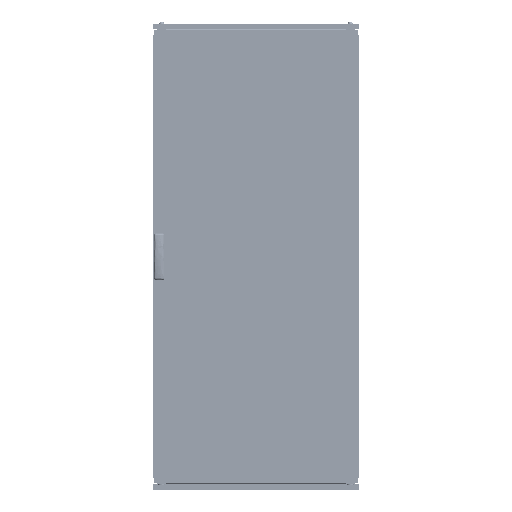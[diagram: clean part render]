
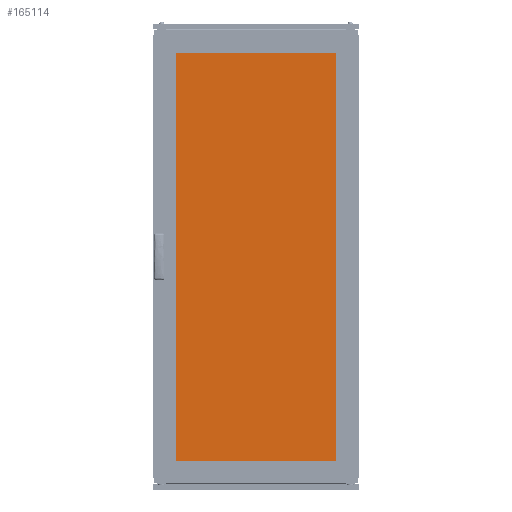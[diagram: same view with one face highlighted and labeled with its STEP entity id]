
A CAD part, top view. The second image highlights one B-rep face of the part: STEP entity #165114.
In plain terms, the highlighted planar face has unit normal (0, 0, 1).
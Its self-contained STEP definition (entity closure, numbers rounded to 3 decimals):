
#9951 = DIRECTION ( 'NONE',  ( 0., 1., 0. ) ) ;
#17906 = CARTESIAN_POINT ( 'NONE',  ( -330., -810., 5. ) ) ;
#24913 = ORIENTED_EDGE ( 'NONE', *, *, #116770, .T. ) ;
#32643 = DIRECTION ( 'NONE',  ( -1., 0., 0. ) ) ;
#49213 = VECTOR ( 'NONE', #9951, 1000. ) ;
#51300 = CARTESIAN_POINT ( 'NONE',  ( -330., 810., 5. ) ) ;
#53916 = EDGE_CURVE ( 'NONE', #145490, #104832, #73829, .T. ) ;
#58462 = CARTESIAN_POINT ( 'NONE',  ( -330., -810., 5. ) ) ;
#65637 = ORIENTED_EDGE ( 'NONE', *, *, #156024, .T. ) ;
#65832 = EDGE_CURVE ( 'NONE', #104832, #215818, #148180, .T. ) ;
#73829 = LINE ( 'NONE', #177226, #49213 ) ;
#74793 = VECTOR ( 'NONE', #125666, 1000. ) ;
#74973 = LINE ( 'NONE', #58462, #74793 ) ;
#81174 = VECTOR ( 'NONE', #188251, 1000. ) ;
#82131 = PLANE ( 'NONE',  #107584 ) ;
#88077 = CARTESIAN_POINT ( 'NONE',  ( -330., -810., 5. ) ) ;
#104832 = VERTEX_POINT ( 'NONE', #107988 ) ;
#107584 = AXIS2_PLACEMENT_3D ( 'NONE', #204019, #183386, #32643 ) ;
#107988 = CARTESIAN_POINT ( 'NONE',  ( 330., 810., 5. ) ) ;
#116281 = FACE_OUTER_BOUND ( 'NONE', #184326, .T. ) ;
#116770 = EDGE_CURVE ( 'NONE', #145225, #145490, #123315, .T. ) ;
#123315 = LINE ( 'NONE', #88077, #81174 ) ;
#125666 = DIRECTION ( 'NONE',  ( 0., -1., 0. ) ) ;
#132606 = ORIENTED_EDGE ( 'NONE', *, *, #65832, .T. ) ;
#136090 = DIRECTION ( 'NONE',  ( -1., 0., 0. ) ) ;
#142328 = ORIENTED_EDGE ( 'NONE', *, *, #53916, .T. ) ;
#145225 = VERTEX_POINT ( 'NONE', #17906 ) ;
#145490 = VERTEX_POINT ( 'NONE', #181609 ) ;
#148180 = LINE ( 'NONE', #51300, #152201 ) ;
#151510 = CARTESIAN_POINT ( 'NONE',  ( -330., 810., 5. ) ) ;
#152201 = VECTOR ( 'NONE', #136090, 1000. ) ;
#156024 = EDGE_CURVE ( 'NONE', #215818, #145225, #74973, .T. ) ;
#165114 = ADVANCED_FACE ( 'NONE', ( #116281 ), #82131, .F. ) ;
#177226 = CARTESIAN_POINT ( 'NONE',  ( 330., -810., 5. ) ) ;
#181609 = CARTESIAN_POINT ( 'NONE',  ( 330., -810., 5. ) ) ;
#183386 = DIRECTION ( 'NONE',  ( 0., 0., -1. ) ) ;
#184326 = EDGE_LOOP ( 'NONE', ( #142328, #132606, #65637, #24913 ) ) ;
#188251 = DIRECTION ( 'NONE',  ( 1., 0., 0. ) ) ;
#204019 = CARTESIAN_POINT ( 'NONE',  ( 0., 0., 5. ) ) ;
#215818 = VERTEX_POINT ( 'NONE', #151510 ) ;
